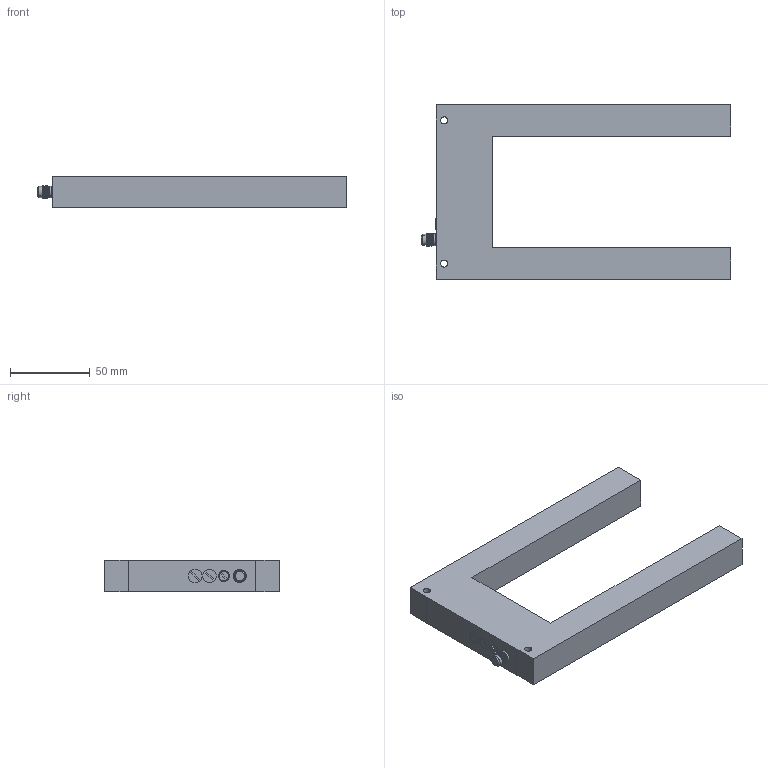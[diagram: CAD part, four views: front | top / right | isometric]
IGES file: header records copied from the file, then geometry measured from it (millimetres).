
Start section: IMSI TurboCAD v14.0
Global section: author: NULL; organization: NULL; date: 20200901.120709; units: millimetre
Bounding box: 194.42 x 110 x 20 mm (x, y, z)
Surface area: 38396.9 mm2 (no closed solid volume)
Topology: 0 solids, 0 shells, 86 faces, 417 edges, 417 vertices
Faces by surface type: revolution 44, extrusion 40, bspline 2
